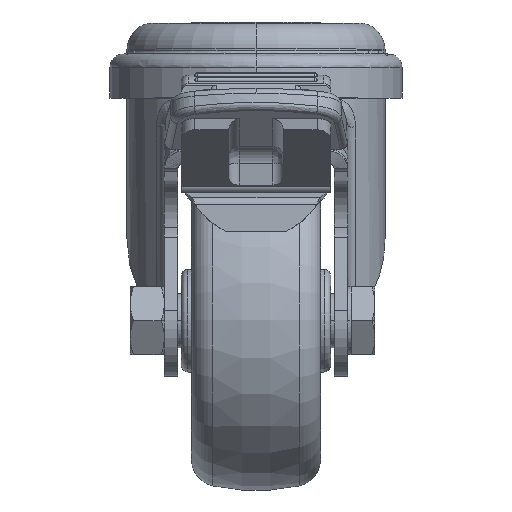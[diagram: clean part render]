
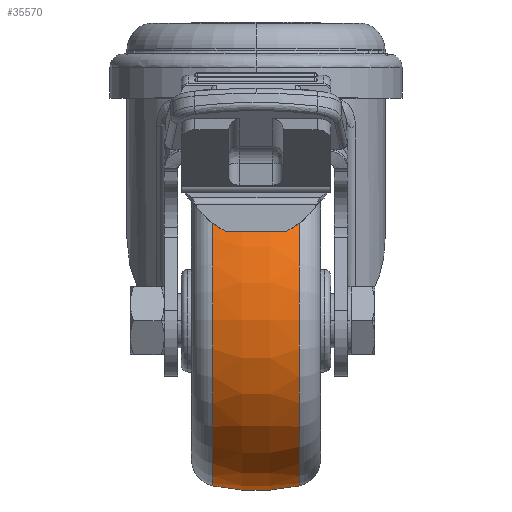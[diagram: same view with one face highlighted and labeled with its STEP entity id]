
A CAD part, top view. The second image highlights one B-rep face of the part: STEP entity #35570.
In plain terms, the highlighted toroidal (fillet/blend) face has major radius 5 mm and minor radius 30 mm.
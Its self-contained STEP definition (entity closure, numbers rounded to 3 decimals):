
#18734 = FACE_OUTER_BOUND ( 'NONE', #39407, .T. ) ;
#18748 = CARTESIAN_POINT ( 'NONE',  ( 0., 0., 0. ) ) ;
#18760 = DIRECTION ( 'NONE',  ( -1., 0., 0. ) ) ;
#18761 = DIRECTION ( 'NONE',  ( 0., 0., 1. ) ) ;
#19603 = EDGE_CURVE ( 'NONE', #59568, #59576, #42518, .T. ) ;
#19605 = EDGE_CURVE ( 'NONE', #59606, #59574, #42495, .T. ) ;
#19610 = EDGE_CURVE ( 'NONE', #59606, #59568, #42531, .T. ) ;
#19616 = EDGE_CURVE ( 'NONE', #59574, #59576, #42523, .T. ) ;
#21045 = TOROIDAL_SURFACE ( 'NONE', #21049, -5., 30. ) ;
#21049 = AXIS2_PLACEMENT_3D ( 'NONE', #18748, #18760, #18761 ) ;
#27707 = ORIENTED_EDGE ( 'NONE', *, *, #19605, .F. ) ;
#27708 = ORIENTED_EDGE ( 'NONE', *, *, #19616, .F. ) ;
#27709 = ORIENTED_EDGE ( 'NONE', *, *, #19603, .T. ) ;
#27710 = ORIENTED_EDGE ( 'NONE', *, *, #19610, .T. ) ;
#35570 = ADVANCED_FACE ( 'NONE', ( #18734 ), #21045, .T. ) ;
#36271 = CARTESIAN_POINT ( 'NONE',  ( 0., 0., 5. ) ) ;
#36272 = DIRECTION ( 'NONE',  ( 0., 1., 0. ) ) ;
#36273 = DIRECTION ( 'NONE',  ( 0., 0., 1. ) ) ;
#36274 = CARTESIAN_POINT ( 'NONE',  ( 0., 0., -5. ) ) ;
#36275 = DIRECTION ( 'NONE',  ( 0., -1., 0. ) ) ;
#36276 = DIRECTION ( 'NONE',  ( 0., 0., -1. ) ) ;
#36285 = CARTESIAN_POINT ( 'NONE',  ( 6.346, 0., 0. ) ) ;
#36287 = DIRECTION ( 'NONE',  ( -1., 0., 0. ) ) ;
#36288 = DIRECTION ( 'NONE',  ( 0., 0., 1. ) ) ;
#36297 = CARTESIAN_POINT ( 'NONE',  ( -6.346, 0., 0. ) ) ;
#36298 = DIRECTION ( 'NONE',  ( -1., 0., 0. ) ) ;
#36299 = DIRECTION ( 'NONE',  ( 0., 0., 1. ) ) ;
#39407 = EDGE_LOOP ( 'NONE', ( #27710, #27709, #27708, #27707 ) ) ;
#40001 = CARTESIAN_POINT ( 'NONE',  ( 6.346, 0., -24.321 ) ) ;
#40010 = CARTESIAN_POINT ( 'NONE',  ( -6.346, 0., 24.321 ) ) ;
#40013 = CARTESIAN_POINT ( 'NONE',  ( -6.346, 0., -24.321 ) ) ;
#40061 = CARTESIAN_POINT ( 'NONE',  ( 6.346, 0., 24.321 ) ) ;
#42495 = CIRCLE ( 'NONE', #42529, 30. ) ;
#42518 = CIRCLE ( 'NONE', #42525, 30. ) ;
#42523 = CIRCLE ( 'NONE', #42549, 24.321 ) ;
#42525 = AXIS2_PLACEMENT_3D ( 'NONE', #36271, #36272, #36273 ) ;
#42529 = AXIS2_PLACEMENT_3D ( 'NONE', #36274, #36275, #36276 ) ;
#42531 = CIRCLE ( 'NONE', #42538, 24.321 ) ;
#42538 = AXIS2_PLACEMENT_3D ( 'NONE', #36285, #36287, #36288 ) ;
#42549 = AXIS2_PLACEMENT_3D ( 'NONE', #36297, #36298, #36299 ) ;
#59568 = VERTEX_POINT ( 'NONE', #40001 ) ;
#59574 = VERTEX_POINT ( 'NONE', #40010 ) ;
#59576 = VERTEX_POINT ( 'NONE', #40013 ) ;
#59606 = VERTEX_POINT ( 'NONE', #40061 ) ;
